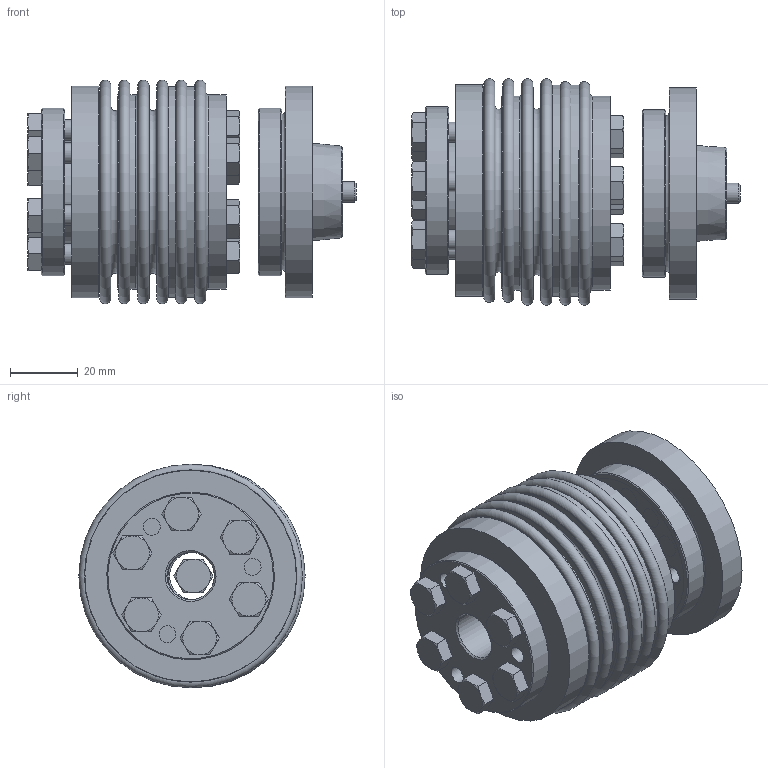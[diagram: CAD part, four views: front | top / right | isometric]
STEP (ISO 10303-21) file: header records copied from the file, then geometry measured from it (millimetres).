
FILE_DESCRIPTION( ( 'Unknown' ), '1' );
FILE_NAME( 'C:/Dokumente und Einstellungen/Sven/Desktop/homepage/cad - homepage/KB5/KB5-60-62.stp', 'Unknown', ( 'Unknown' ), ( 'Unknown' ), 'XStep 1.0', 'Unknown', ' ' );
FILE_SCHEMA( ( 'automotive_design' ) );
Length unit declared in the file: millimetre
Products named in the file (6): Assem1; Hex Screw GradeC_DIN_ISO 4018 - M6 x 20-NN; BA60_Standard; Hex Screw GradeC_DIN_ISO 4018 - M6 x 25-NN; KB60_Standard; BK60_Standard
Bounding box: 97.06 x 66.82 x 66 mm (x, y, z)
Volume: 161609.9 mm3; surface area: 126533.6 mm2
Topology: 22 solids, 22 shells, 416 faces, 865 edges, 545 vertices
Faces by surface type: plane 180, cone 119, cylinder 82, torus 35
Full cylindrical faces by diameter (mm): 5 x9, 6 x32, 6.6 x18, 14 x3, 30.2 x3, 46 x3, 49.5 x3, 56.3 x4, 57.3 x4, 62.5 x3
Entity records: 3025 total; most frequent: DIRECTION 482, CARTESIAN_POINT 478, ORIENTED_EDGE 306, AXIS2_PLACEMENT_3D 229, EDGE_LOOP 214, EDGE_CURVE 153, FACE_OUTER_BOUND 149, VERTEX_POINT 129
